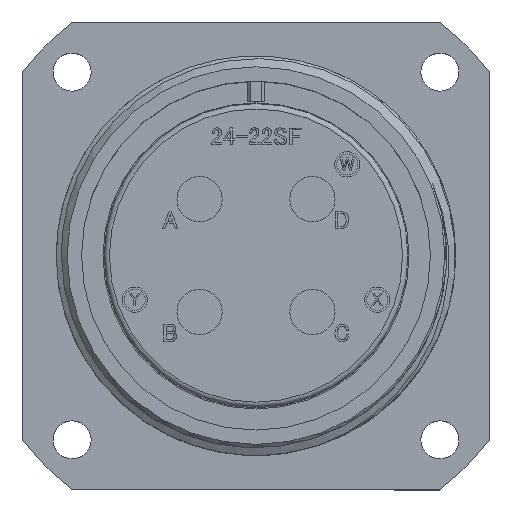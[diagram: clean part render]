
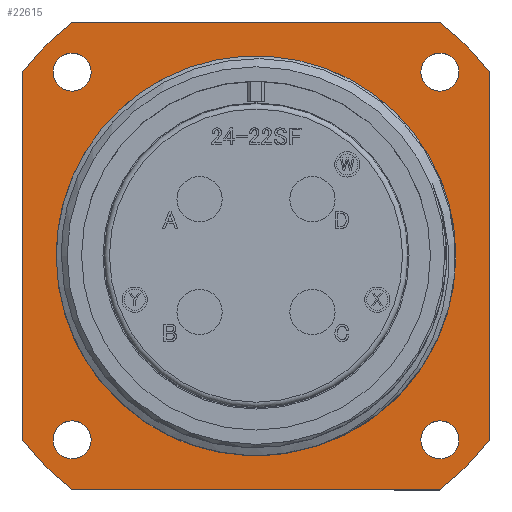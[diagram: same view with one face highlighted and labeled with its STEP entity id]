
A CAD part, top view. The second image highlights one B-rep face of the part: STEP entity #22615.
In plain terms, the highlighted planar face has unit normal (0, 0, 1).
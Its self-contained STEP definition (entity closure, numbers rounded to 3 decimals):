
#180 = DIRECTION ( 'NONE',  ( 1., 0., 0. ) ) ;
#195 = VECTOR ( 'NONE', #16084, 1000. ) ;
#537 = CIRCLE ( 'NONE', #17647, 18.975 ) ;
#948 = CARTESIAN_POINT ( 'NONE',  ( -22.225, 22.225, -20.8 ) ) ;
#961 = CARTESIAN_POINT ( 'NONE',  ( 17.439, -22.225, -20.8 ) ) ;
#1207 = CIRCLE ( 'NONE', #15549, 28.25 ) ;
#1554 = ORIENTED_EDGE ( 'NONE', *, *, #21543, .T. ) ;
#2053 = VERTEX_POINT ( 'NONE', #15807 ) ;
#2070 = LINE ( 'NONE', #22505, #25688 ) ;
#2881 = VERTEX_POINT ( 'NONE', #17187 ) ;
#2908 = EDGE_LOOP ( 'NONE', ( #9253 ) ) ;
#3151 = DIRECTION ( 'NONE',  ( 1., 0., 0. ) ) ;
#3287 = DIRECTION ( 'NONE',  ( 0., 0., 1. ) ) ;
#3758 = DIRECTION ( 'NONE',  ( 1., 0., 0. ) ) ;
#3876 = CIRCLE ( 'NONE', #13200, 1.805 ) ;
#3902 = EDGE_LOOP ( 'NONE', ( #18320 ) ) ;
#4353 = CARTESIAN_POINT ( 'NONE',  ( 17.439, 22.225, -20.8 ) ) ;
#4475 = CARTESIAN_POINT ( 'NONE',  ( -17.439, 22.225, -20.8 ) ) ;
#4565 = EDGE_CURVE ( 'NONE', #23398, #10085, #16656, .T. ) ;
#5236 = CARTESIAN_POINT ( 'NONE',  ( 19.27, 17.465, -20.8 ) ) ;
#5429 = ORIENTED_EDGE ( 'NONE', *, *, #18110, .F. ) ;
#5516 = AXIS2_PLACEMENT_3D ( 'NONE', #9684, #18419, #3151 ) ;
#5537 = FACE_BOUND ( 'NONE', #24926, .T. ) ;
#5822 = DIRECTION ( 'NONE',  ( 0., 0., -1. ) ) ;
#6054 = VERTEX_POINT ( 'NONE', #22787 ) ;
#6740 = DIRECTION ( 'NONE',  ( 0., 0., -1. ) ) ;
#6897 = FACE_BOUND ( 'NONE', #3902, .T. ) ;
#7044 = CARTESIAN_POINT ( 'NONE',  ( 19.27, -17.465, -20.8 ) ) ;
#7103 = LINE ( 'NONE', #26481, #8147 ) ;
#7318 = CIRCLE ( 'NONE', #5516, 1.805 ) ;
#7331 = ORIENTED_EDGE ( 'NONE', *, *, #8760, .F. ) ;
#7432 = CARTESIAN_POINT ( 'NONE',  ( -15.66, 17.465, -20.8 ) ) ;
#7546 = PLANE ( 'NONE',  #23366 ) ;
#7797 = VERTEX_POINT ( 'NONE', #7044 ) ;
#8012 = CIRCLE ( 'NONE', #22742, 1.805 ) ;
#8021 = CARTESIAN_POINT ( 'NONE',  ( -22.225, -22.225, -20.8 ) ) ;
#8147 = VECTOR ( 'NONE', #24235, 1000. ) ;
#8760 = EDGE_CURVE ( 'NONE', #16002, #16930, #21263, .T. ) ;
#8828 = ORIENTED_EDGE ( 'NONE', *, *, #25008, .F. ) ;
#9253 = ORIENTED_EDGE ( 'NONE', *, *, #14345, .F. ) ;
#9320 = CARTESIAN_POINT ( 'NONE',  ( -15.66, -17.465, -20.8 ) ) ;
#9413 = DIRECTION ( 'NONE',  ( 1., 0., 0. ) ) ;
#9436 = VERTEX_POINT ( 'NONE', #4353 ) ;
#9684 = CARTESIAN_POINT ( 'NONE',  ( -17.465, 17.465, -20.8 ) ) ;
#9730 = DIRECTION ( 'NONE',  ( 1., 0., 0. ) ) ;
#10085 = VERTEX_POINT ( 'NONE', #961 ) ;
#10178 = DIRECTION ( 'NONE',  ( 0., 0., 1. ) ) ;
#10427 = VERTEX_POINT ( 'NONE', #4475 ) ;
#10560 = CIRCLE ( 'NONE', #27097, 1.805 ) ;
#10653 = ORIENTED_EDGE ( 'NONE', *, *, #22084, .T. ) ;
#10864 = DIRECTION ( 'NONE',  ( 1., 0., 0. ) ) ;
#11386 = CARTESIAN_POINT ( 'NONE',  ( -17.465, -17.465, -20.8 ) ) ;
#12396 = EDGE_LOOP ( 'NONE', ( #5429 ) ) ;
#12830 = CARTESIAN_POINT ( 'NONE',  ( -17.439, -22.225, -20.8 ) ) ;
#12920 = CARTESIAN_POINT ( 'NONE',  ( 0., 0., -20.8 ) ) ;
#13200 = AXIS2_PLACEMENT_3D ( 'NONE', #11386, #26651, #9413 ) ;
#13236 = EDGE_CURVE ( 'NONE', #16002, #10085, #14440, .T. ) ;
#13504 = EDGE_CURVE ( 'NONE', #18571, #18571, #7318, .T. ) ;
#13759 = VECTOR ( 'NONE', #25168, 1000. ) ;
#14345 = EDGE_CURVE ( 'NONE', #22995, #22995, #8012, .T. ) ;
#14440 = LINE ( 'NONE', #8021, #13759 ) ;
#14458 = AXIS2_PLACEMENT_3D ( 'NONE', #20740, #5822, #3758 ) ;
#15146 = VERTEX_POINT ( 'NONE', #9320 ) ;
#15263 = DIRECTION ( 'NONE',  ( 0., 0., -1. ) ) ;
#15266 = DIRECTION ( 'NONE',  ( 0., 0., -1. ) ) ;
#15549 = AXIS2_PLACEMENT_3D ( 'NONE', #12920, #15266, #10864 ) ;
#15564 = EDGE_CURVE ( 'NONE', #2053, #2053, #537, .T. ) ;
#15807 = CARTESIAN_POINT ( 'NONE',  ( 18.975, 0., -20.8 ) ) ;
#16002 = VERTEX_POINT ( 'NONE', #12830 ) ;
#16084 = DIRECTION ( 'NONE',  ( 0., -1., 0. ) ) ;
#16464 = DIRECTION ( 'NONE',  ( 1., 0., 0. ) ) ;
#16656 = CIRCLE ( 'NONE', #27806, 28.25 ) ;
#16843 = AXIS2_PLACEMENT_3D ( 'NONE', #23873, #15263, #27832 ) ;
#16930 = VERTEX_POINT ( 'NONE', #19461 ) ;
#17011 = FACE_BOUND ( 'NONE', #2908, .T. ) ;
#17187 = CARTESIAN_POINT ( 'NONE',  ( -22.225, 17.439, -20.8 ) ) ;
#17203 = CARTESIAN_POINT ( 'NONE',  ( 0., 0., -20.8 ) ) ;
#17269 = DIRECTION ( 'NONE',  ( 1., 0., 0. ) ) ;
#17600 = ORIENTED_EDGE ( 'NONE', *, *, #4565, .F. ) ;
#17647 = AXIS2_PLACEMENT_3D ( 'NONE', #19364, #23821, #17269 ) ;
#17926 = DIRECTION ( 'NONE',  ( 0., 1., 0. ) ) ;
#18110 = EDGE_CURVE ( 'NONE', #7797, #7797, #10560, .T. ) ;
#18176 = ORIENTED_EDGE ( 'NONE', *, *, #13504, .F. ) ;
#18273 = CARTESIAN_POINT ( 'NONE',  ( 17.465, -17.465, -20.8 ) ) ;
#18320 = ORIENTED_EDGE ( 'NONE', *, *, #15564, .F. ) ;
#18419 = DIRECTION ( 'NONE',  ( 0., 0., 1. ) ) ;
#18544 = CARTESIAN_POINT ( 'NONE',  ( 17.465, 17.465, -20.8 ) ) ;
#18571 = VERTEX_POINT ( 'NONE', #7432 ) ;
#19294 = CIRCLE ( 'NONE', #16843, 28.25 ) ;
#19364 = CARTESIAN_POINT ( 'NONE',  ( 0., 0., -20.8 ) ) ;
#19461 = CARTESIAN_POINT ( 'NONE',  ( -22.225, -17.439, -20.8 ) ) ;
#19992 = EDGE_CURVE ( 'NONE', #23398, #6054, #2070, .T. ) ;
#20550 = DIRECTION ( 'NONE',  ( 1., 0., 0. ) ) ;
#20707 = EDGE_LOOP ( 'NONE', ( #26695, #1554, #8828, #10653, #7331, #27645, #17600, #23792 ) ) ;
#20740 = CARTESIAN_POINT ( 'NONE',  ( 0., 0., -20.8 ) ) ;
#20770 = LINE ( 'NONE', #948, #195 ) ;
#21263 = CIRCLE ( 'NONE', #14458, 28.25 ) ;
#21543 = EDGE_CURVE ( 'NONE', #9436, #10427, #7103, .T. ) ;
#21898 = EDGE_CURVE ( 'NONE', #15146, #15146, #3876, .T. ) ;
#22084 = EDGE_CURVE ( 'NONE', #2881, #16930, #20770, .T. ) ;
#22375 = EDGE_CURVE ( 'NONE', #9436, #6054, #1207, .T. ) ;
#22505 = CARTESIAN_POINT ( 'NONE',  ( 22.225, 22.225, -20.8 ) ) ;
#22615 = ADVANCED_FACE ( 'NONE', ( #27481, #17011, #23777, #5537, #23475, #6897 ), #7546, .T. ) ;
#22657 = DIRECTION ( 'NONE',  ( 0., 0., 1. ) ) ;
#22742 = AXIS2_PLACEMENT_3D ( 'NONE', #18544, #10178, #16464 ) ;
#22787 = CARTESIAN_POINT ( 'NONE',  ( 22.225, 17.439, -20.8 ) ) ;
#22845 = CARTESIAN_POINT ( 'NONE',  ( 0., 0., -20.8 ) ) ;
#22995 = VERTEX_POINT ( 'NONE', #5236 ) ;
#23366 = AXIS2_PLACEMENT_3D ( 'NONE', #22845, #22657, #9730 ) ;
#23398 = VERTEX_POINT ( 'NONE', #24944 ) ;
#23421 = ORIENTED_EDGE ( 'NONE', *, *, #21898, .F. ) ;
#23475 = FACE_OUTER_BOUND ( 'NONE', #20707, .T. ) ;
#23777 = FACE_BOUND ( 'NONE', #12396, .T. ) ;
#23792 = ORIENTED_EDGE ( 'NONE', *, *, #19992, .T. ) ;
#23821 = DIRECTION ( 'NONE',  ( 0., 0., 1. ) ) ;
#23873 = CARTESIAN_POINT ( 'NONE',  ( 0., 0., -20.8 ) ) ;
#24235 = DIRECTION ( 'NONE',  ( -1., 0., 0. ) ) ;
#24926 = EDGE_LOOP ( 'NONE', ( #23421 ) ) ;
#24944 = CARTESIAN_POINT ( 'NONE',  ( 22.225, -17.439, -20.8 ) ) ;
#25008 = EDGE_CURVE ( 'NONE', #2881, #10427, #19294, .T. ) ;
#25168 = DIRECTION ( 'NONE',  ( 1., 0., 0. ) ) ;
#25688 = VECTOR ( 'NONE', #17926, 1000. ) ;
#26481 = CARTESIAN_POINT ( 'NONE',  ( -22.225, 22.225, -20.8 ) ) ;
#26651 = DIRECTION ( 'NONE',  ( 0., 0., 1. ) ) ;
#26695 = ORIENTED_EDGE ( 'NONE', *, *, #22375, .F. ) ;
#27097 = AXIS2_PLACEMENT_3D ( 'NONE', #18273, #3287, #20550 ) ;
#27262 = EDGE_LOOP ( 'NONE', ( #18176 ) ) ;
#27481 = FACE_BOUND ( 'NONE', #27262, .T. ) ;
#27645 = ORIENTED_EDGE ( 'NONE', *, *, #13236, .T. ) ;
#27806 = AXIS2_PLACEMENT_3D ( 'NONE', #17203, #6740, #180 ) ;
#27832 = DIRECTION ( 'NONE',  ( 1., 0., 0. ) ) ;
